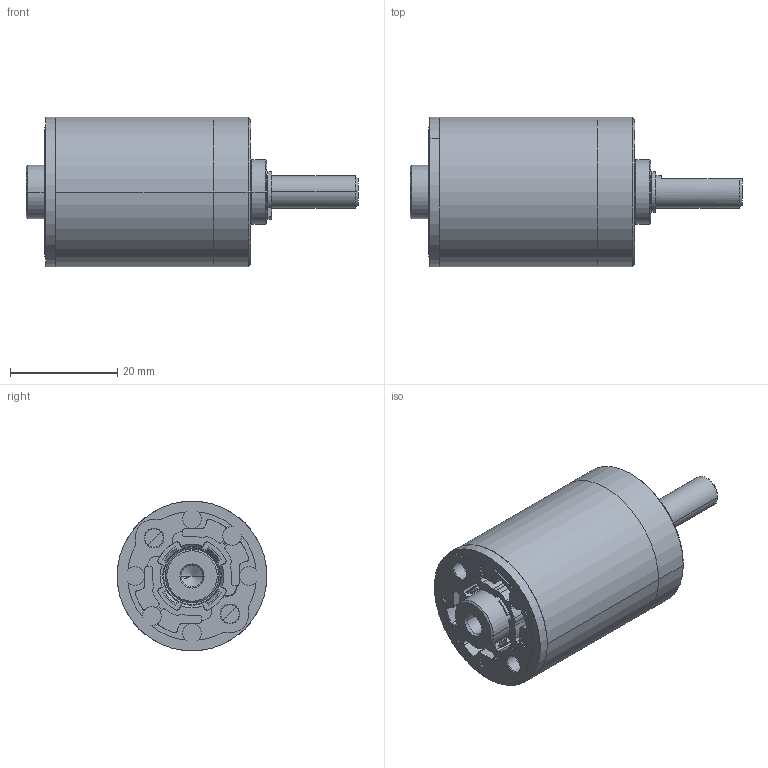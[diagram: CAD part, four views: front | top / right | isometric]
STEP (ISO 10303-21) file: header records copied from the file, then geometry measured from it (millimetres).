
FILE_DESCRIPTION((''),'2;1');
FILE_NAME('IMS28_ECO_MAX_LN_2_STAGE_ASM','2023-07-27T09:23:21',('mhummel'),(''),'CREO PARAMETRIC BY PTC INC, 2020184','CREO PARAMETRIC BY PTC INC, 2020184','');
FILE_SCHEMA(('AUTOMOTIVE_DESIGN { 1 0 10303 214 1 1 1 1 }'));
Length unit declared in the file: millimetre
Products named in the file (11): IMS28_ECO_MAX_LN_BEARING_FLANGE; IMS28_ECO_MAX_LN_SI_BEARING; IMS28_ECO_MAX_LN_RING_GEAR_2ST; IMS28_ECO_MAX_LN_MOTOR_FLANGE; IMS28_ECO_MAX_LN_SHAFT_RAW_AF0; IMS28_ECO_MAX_LN_SHAFT_ASM; IMS28_ECO_MAX_LN_RETAINING_RING; IMS28_ECO_MAX_LN_THRUST_WASHER; IMS28_ECO_MAX_LN_MO_PINION_LONG; IMS28_ECO_MAX_LN_MP_SHORT; IMS28_ECO_MAX_LN_2_STAGE_ASM
Assembly tree (10 placements, depth 3):
  IMS28_ECO_MAX_LN_2_STAGE_ASM
    IMS28_ECO_MAX_LN_BEARING_FLANGE
    IMS28_ECO_MAX_LN_SI_BEARING
    IMS28_ECO_MAX_LN_RING_GEAR_2ST
    IMS28_ECO_MAX_LN_MOTOR_FLANGE
    IMS28_ECO_MAX_LN_SHAFT_ASM
      IMS28_ECO_MAX_LN_SHAFT_RAW_AF0
    IMS28_ECO_MAX_LN_RETAINING_RING
    IMS28_ECO_MAX_LN_THRUST_WASHER
    IMS28_ECO_MAX_LN_MO_PINION_LONG
    IMS28_ECO_MAX_LN_MP_SHORT
Bounding box: 61.9 x 27.95 x 27.95 mm (x, y, z)
Volume: 12973.1 mm3; surface area: 13924.1 mm2
Topology: 9 solids, 9 shells, 457 faces, 1176 edges, 739 vertices
Faces by surface type: cylinder 230, plane 105, cone 70, torus 46, sphere 6
Entity records: 18239 total; most frequent: DIRECTION 2712, CARTESIAN_POINT 2616, ORIENTED_EDGE 2316, EDGE_CURVE 1158, PRESENTATION_STYLE_ASSIGNMENT 1154, STYLED_ITEM 1154, CURVE_STYLE 1146, AXIS2_PLACEMENT_3D 1119
